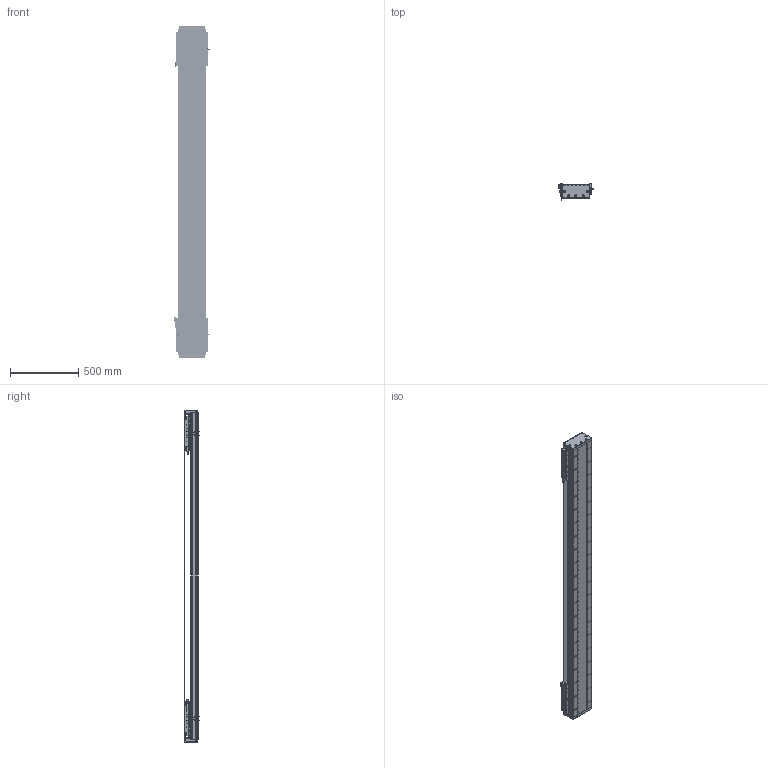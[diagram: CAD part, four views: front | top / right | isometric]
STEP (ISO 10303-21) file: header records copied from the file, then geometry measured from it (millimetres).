
FILE_DESCRIPTION (( 'STEP AP203' ), '1' );
FILE_NAME ('DA-C195-2-C3-T1820-C010-0.2 眻盄萇儂.STEP', '2025-08-15T00:44:40', ( '' ), ( '' ), 'SwSTEP 2.0', 'SolidWorks 2019', '' );
FILE_SCHEMA (( 'CONFIG_CONTROL_DESIGN' ));
Length unit declared in the file: millimetre
Products named in the file (19): DKW-KGZ-ZJ-00 中间光电开关支架; DA165-GYP-00 光电感应片(默认); DA195詩湍菜輸; DA195詩湍裔啣; DA95-HXJ-00 遣喳砎蝶; CU195-C3賑輸-俋楷; 葩璃 DA95-GT-T-00; DA-C195-GD-DB-H-00 傷啣; DA195詩湍嶺輸; PM-T45ㄗ侂狟ㄘ; MS200 棠掑喜S315-T240; IU-CU195-L 菁釱絳寢; PM-Y65嫖萇羲壽郪璃; IU-CU195-L-00 菁釱(L2400); DKW168-HXJ-ZJ-00 笢潔滅袉砎蝶; DKW-GYP-ZJ-00 笢潔嫖萇覜茼え; DA-C195-2-C3-T1820-C010-0.2 眻盄萇儂; DA195詩湍郪璃; LMT黍杅芛
Assembly tree (37 placements, depth 3):
  DA-C195-2-C3-T1820-C010-0.2 眻盄萇儂
    DA195詩湍郪璃
      DA195詩湍菜輸  x2
      DA195詩湍裔啣
      DA195詩湍嶺輸  x2
      DA95-HXJ-00 遣喳砎蝶  x8
      DA-C195-GD-DB-H-00 傷啣  x2
    IU-CU195-L 菁釱絳寢
      IU-CU195-L-00 菁釱(L2400)
      葩璃 DA95-GT-T-00  x4
    LMT黍杅芛  x2
    MS200 棠掑喜S315-T240
    PM-T45ㄗ侂狟ㄘ  x4
    DA165-GYP-00 光电感应片(默认)  x2
    PM-Y65嫖萇羲壽郪璃
    DKW168-HXJ-ZJ-00 笢潔滅袉砎蝶
    DKW-GYP-ZJ-00 笢潔嫖萇覜茼え
    DKW-KGZ-ZJ-00 中间光电开关支架
    CU195-C3賑輸-俋楷  x2
Bounding box: 258.2 x 115.45 x 2440 mm (x, y, z)
Volume: 16118270.6 mm3; surface area: 4596827.9 mm2
Topology: 154 solids, 218 shells, 6809 faces, 18111 edges, 11269 vertices
Faces by surface type: cylinder 3210, plane 2547, cone 884, torus 88, sphere 72, bspline 8
Entity records: 145427 total; most frequent: CARTESIAN_POINT 38237, ORIENTED_EDGE 22238, DIRECTION 21440, EDGE_CURVE 11119, AXIS2_PLACEMENT_3D 7885, VERTEX_POINT 7194, LINE 5670, VECTOR 5670
